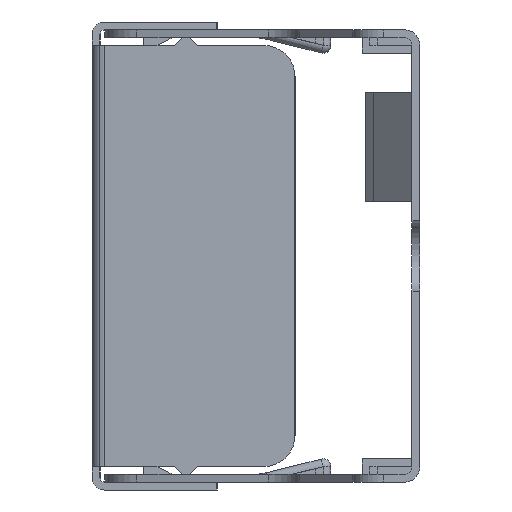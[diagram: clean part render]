
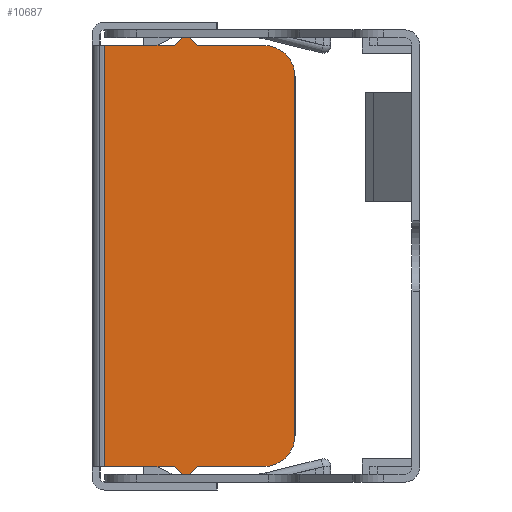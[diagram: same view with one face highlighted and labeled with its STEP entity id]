
A CAD part, left-side view. The second image highlights one B-rep face of the part: STEP entity #10687.
In plain terms, the highlighted planar face has unit normal (-1, 0, 0).
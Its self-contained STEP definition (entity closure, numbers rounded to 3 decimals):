
#9256=DIRECTION('',(0.,1.,0.));
#9257=VECTOR('',#9256,4.25);
#9258=CARTESIAN_POINT('',(-112.,10.,-13.5));
#9259=LINE('',#9258,#9257);
#9260=DIRECTION('',(0.,-0.731,0.682));
#9261=VECTOR('',#9260,1.026);
#9262=CARTESIAN_POINT('',(-112.,15.,-14.2));
#9263=LINE('',#9262,#9261);
#9264=DIRECTION('',(0.,-0.731,-0.682));
#9265=VECTOR('',#9264,1.026);
#9266=CARTESIAN_POINT('',(-112.,15.75,-13.5));
#9267=LINE('',#9266,#9265);
#9268=DIRECTION('',(0.,1.,0.));
#9269=VECTOR('',#9268,4.45);
#9270=CARTESIAN_POINT('',(-112.,15.75,-13.5));
#9271=LINE('',#9270,#9269);
#9272=DIRECTION('',(0.,0.,-1.));
#9273=VECTOR('',#9272,27.);
#9274=CARTESIAN_POINT('',(-112.,20.2,13.5));
#9275=LINE('',#9274,#9273);
#9276=DIRECTION('',(0.,1.,0.));
#9277=VECTOR('',#9276,4.45);
#9278=CARTESIAN_POINT('',(-112.,15.75,13.5));
#9279=LINE('',#9278,#9277);
#9280=DIRECTION('',(0.,0.731,-0.682));
#9281=VECTOR('',#9280,1.026);
#9282=CARTESIAN_POINT('',(-112.,15.,14.2));
#9283=LINE('',#9282,#9281);
#9284=DIRECTION('',(0.,0.731,0.682));
#9285=VECTOR('',#9284,1.026);
#9286=CARTESIAN_POINT('',(-112.,14.25,13.5));
#9287=LINE('',#9286,#9285);
#9288=DIRECTION('',(0.,1.,0.));
#9289=VECTOR('',#9288,4.25);
#9290=CARTESIAN_POINT('',(-112.,10.,13.5));
#9291=LINE('',#9290,#9289);
#9292=CARTESIAN_POINT('',(-112.,10.,11.5));
#9293=DIRECTION('',(-1.,0.,0.));
#9294=DIRECTION('',(0.,-1.,0.));
#9295=AXIS2_PLACEMENT_3D('',#9292,#9293,#9294);
#9297=DIRECTION('',(0.,0.,-1.));
#9298=VECTOR('',#9297,23.);
#9299=CARTESIAN_POINT('',(-112.,8.,11.5));
#9300=LINE('',#9299,#9298);
#9301=CARTESIAN_POINT('',(-112.,10.,-11.5));
#9302=DIRECTION('',(-1.,0.,0.));
#9303=DIRECTION('',(0.,0.,-1.));
#9304=AXIS2_PLACEMENT_3D('',#9301,#9302,#9303);
#10544=CARTESIAN_POINT('',(-112.,20.2,-13.5));
#10546=VERTEX_POINT('',#10544);
#10550=CARTESIAN_POINT('',(-112.,20.2,13.5));
#10551=VERTEX_POINT('',#10550);
#10576=CARTESIAN_POINT('',(-112.,10.,-13.5));
#10578=VERTEX_POINT('',#10576);
#10580=CARTESIAN_POINT('',(-112.,8.,-11.5));
#10581=VERTEX_POINT('',#10580);
#10584=CARTESIAN_POINT('',(-112.,8.,11.5));
#10585=CARTESIAN_POINT('',(-112.,10.,13.5));
#10586=VERTEX_POINT('',#10584);
#10587=VERTEX_POINT('',#10585);
#10632=CARTESIAN_POINT('',(-112.,15.,14.2));
#10634=VERTEX_POINT('',#10632);
#10636=CARTESIAN_POINT('',(-112.,15.,-14.2));
#10638=VERTEX_POINT('',#10636);
#10640=CARTESIAN_POINT('',(-112.,15.75,13.5));
#10642=VERTEX_POINT('',#10640);
#10644=CARTESIAN_POINT('',(-112.,14.25,13.5));
#10646=VERTEX_POINT('',#10644);
#10648=CARTESIAN_POINT('',(-112.,14.25,-13.5));
#10650=VERTEX_POINT('',#10648);
#10652=CARTESIAN_POINT('',(-112.,15.75,-13.5));
#10654=VERTEX_POINT('',#10652);
#10656=CARTESIAN_POINT('',(-112.,0.,0.));
#10657=DIRECTION('',(1.,0.,0.));
#10658=DIRECTION('',(0.,0.,-1.));
#10659=AXIS2_PLACEMENT_3D('',#10656,#10657,#10658);
#10660=PLANE('',#10659);
#10662=ORIENTED_EDGE('',*,*,#10661,.T.);
#10664=ORIENTED_EDGE('',*,*,#10663,.F.);
#10666=ORIENTED_EDGE('',*,*,#10665,.F.);
#10668=ORIENTED_EDGE('',*,*,#10667,.T.);
#10670=ORIENTED_EDGE('',*,*,#10669,.F.);
#10672=ORIENTED_EDGE('',*,*,#10671,.F.);
#10674=ORIENTED_EDGE('',*,*,#10673,.F.);
#10676=ORIENTED_EDGE('',*,*,#10675,.F.);
#10678=ORIENTED_EDGE('',*,*,#10677,.F.);
#10680=ORIENTED_EDGE('',*,*,#10679,.F.);
#10682=ORIENTED_EDGE('',*,*,#10681,.T.);
#10684=ORIENTED_EDGE('',*,*,#10683,.F.);
#10685=EDGE_LOOP('',(#10662,#10664,#10666,#10668,#10670,#10672,#10674,#10676,
#10678,#10680,#10682,#10684));
#10686=FACE_OUTER_BOUND('',#10685,.F.);
#10687=ADVANCED_FACE('',(#10686),#10660,.F.);
#9296=CIRCLE('',#9295,2.);
#9305=CIRCLE('',#9304,2.);
#10661=EDGE_CURVE('',#10578,#10650,#9259,.T.);
#10663=EDGE_CURVE('',#10638,#10650,#9263,.T.);
#10665=EDGE_CURVE('',#10654,#10638,#9267,.T.);
#10667=EDGE_CURVE('',#10654,#10546,#9271,.T.);
#10669=EDGE_CURVE('',#10551,#10546,#9275,.T.);
#10671=EDGE_CURVE('',#10642,#10551,#9279,.T.);
#10673=EDGE_CURVE('',#10634,#10642,#9283,.T.);
#10675=EDGE_CURVE('',#10646,#10634,#9287,.T.);
#10677=EDGE_CURVE('',#10587,#10646,#9291,.T.);
#10679=EDGE_CURVE('',#10586,#10587,#9296,.T.);
#10681=EDGE_CURVE('',#10586,#10581,#9300,.T.);
#10683=EDGE_CURVE('',#10578,#10581,#9305,.T.);
